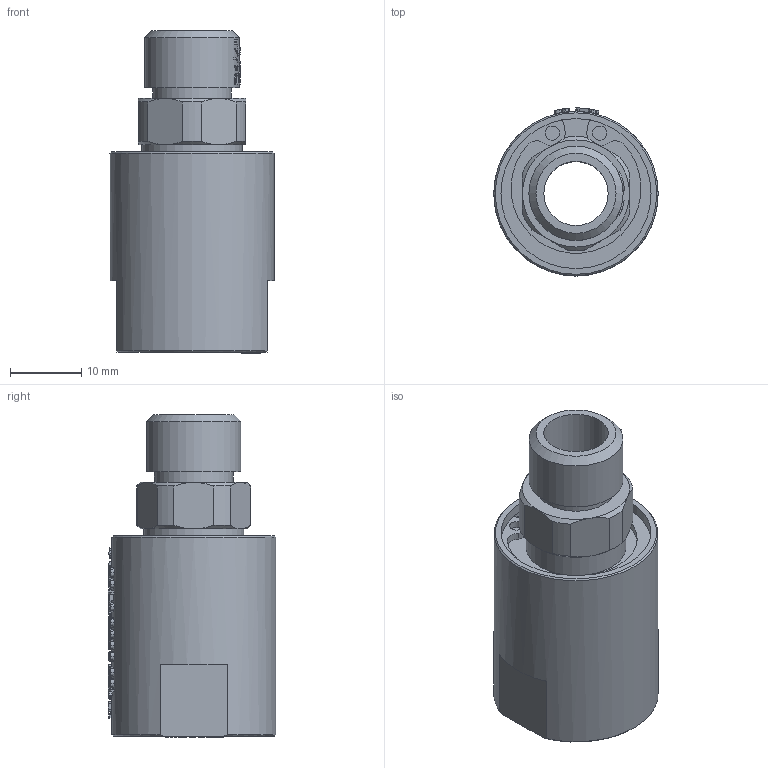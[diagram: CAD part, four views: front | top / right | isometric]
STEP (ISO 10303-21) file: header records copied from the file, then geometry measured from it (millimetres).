
FILE_DESCRIPTION(/* description */ (''),/* implementation_level */ '2;1');
FILE_NAME(/* name */ 'YQK0102(RH)-3D模型.stp',/* time_stamp */ '2025-07-09T08:28:53+08:00',/* author */ (''),/* organization */ (''),/* preprocessor_version */ 'ST-DEVELOPER v16.7',/* originating_system */ 'SIEMENS PLM Software NX 12.0',/* authorisation */ '');
FILE_SCHEMA (('AUTOMOTIVE_DESIGN { 1 0 10303 214 3 1 1 1 }'));
Products named in the file (1): Admi1300D6723vej
Bounding box: 23 x 23.5 x 45.2 mm (x, y, z)
Volume: 10513.2 mm3; surface area: 5428.1 mm2
Topology: 1 solids, 1 shells, 1069 faces, 2939 edges, 1955 vertices
Faces by surface type: extrusion 605, plane 348, cylinder 51, bspline 49, cone 16
Full cylindrical faces by diameter (mm): 2 x2, 9 x1, 9.5 x1, 11 x1, 11.5 x1, 13.2 x1, 14 x1, 21 x1, 22 x1, 23 x1
Entity records: 43878 total; most frequent: CARTESIAN_POINT 21580, ORIENTED_EDGE 5842, B_SPLINE_CURVE_WITH_KNOTS 2957, EDGE_CURVE 2921, DIRECTION 2065, VERTEX_POINT 1950, EDGE_LOOP 1167, ADVANCED_FACE 1069
